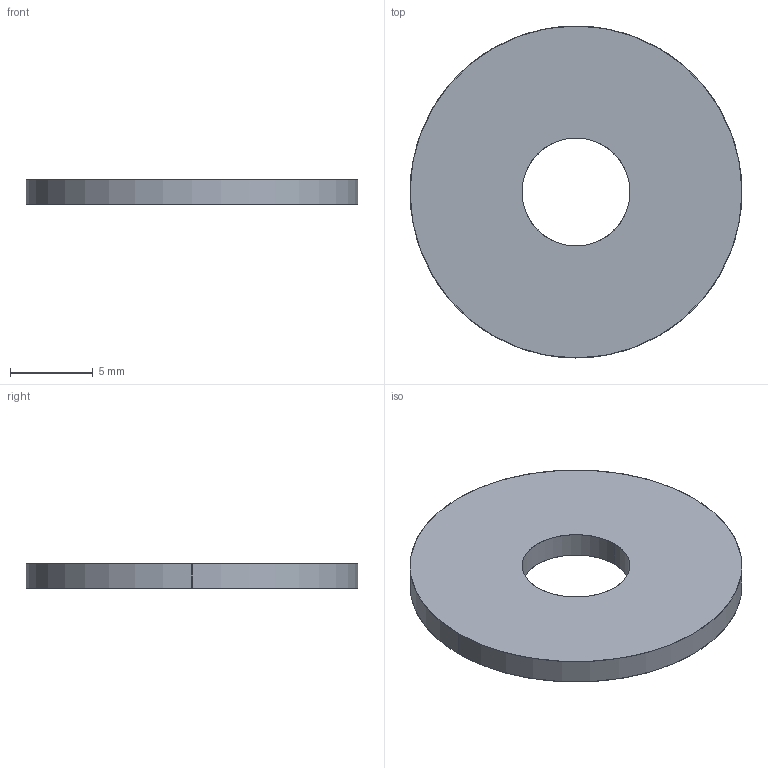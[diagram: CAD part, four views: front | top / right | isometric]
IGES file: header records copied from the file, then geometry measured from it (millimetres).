
Start section: SolidWorks IGES file using analytic representation for surfaces
Global section: file name: C:\Users\liam_\OneDrive\Desktop\Work\Mat Davis Pending 20181125\automotion\P SERIES\P0333.A4_v2\P0333.A4_v2_20181217_IGES\P0333.060-020-A4.igs; native system: SolidWorks 2017; preprocessor: SolidWorks 2017; author: liam_; date: 181217.190814; units: millimetre
Bounding box: 20 x 20 x 1.5 mm (x, y, z)
Surface area: 686.8 mm2 (no closed solid volume)
Topology: 0 solids, 0 shells, 6 faces, 144 edges, 144 vertices
Faces by surface type: revolution 4, bspline 2
